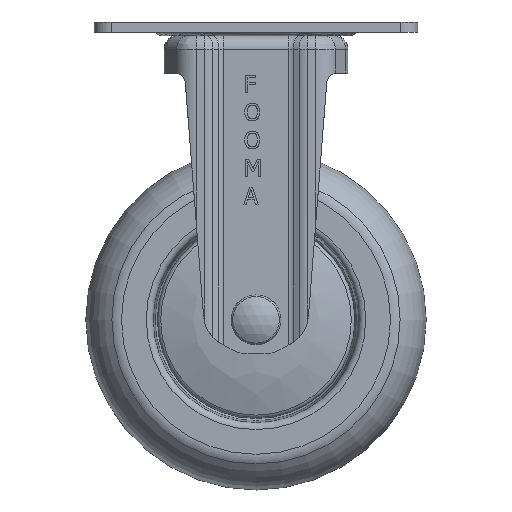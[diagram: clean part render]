
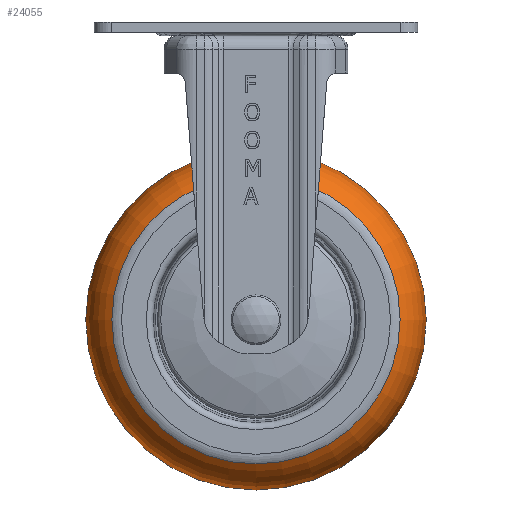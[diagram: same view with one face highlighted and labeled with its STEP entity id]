
A CAD part, front view. The second image highlights one B-rep face of the part: STEP entity #24055.
In plain terms, the highlighted toroidal (fillet/blend) face has major radius 32.404 mm and minor radius 17.6 mm.
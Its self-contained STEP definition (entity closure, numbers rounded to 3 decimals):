
#5906=TOROIDAL_SURFACE('',#25522,32.405,17.6);
#6163=FACE_BOUND('',#7788,.T.);
#6336=FACE_OUTER_BOUND('',#7787,.T.);
#7787=EDGE_LOOP('',(#16035));
#7788=EDGE_LOOP('',(#16036));
#9205=CIRCLE('',#25404,50.);
#9268=CIRCLE('',#25521,42.343);
#9878=VERTEX_POINT('',#34100);
#9941=VERTEX_POINT('',#34370);
#12260=EDGE_CURVE('',#9878,#9878,#9205,.T.);
#12326=EDGE_CURVE('',#9941,#9941,#9268,.T.);
#16035=ORIENTED_EDGE('',*,*,#12326,.T.);
#16036=ORIENTED_EDGE('',*,*,#12260,.F.);
#24055=ADVANCED_FACE('',(#6336,#6163),#5906,.T.);
#25404=AXIS2_PLACEMENT_3D('',#34101,#27426,#27427);
#25521=AXIS2_PLACEMENT_3D('',#34371,#27660,#27661);
#25522=AXIS2_PLACEMENT_3D('',#34372,#27662,#27663);
#27426=DIRECTION('center_axis',(0.,1.,0.));
#27427=DIRECTION('ref_axis',(1.,0.,0.));
#27660=DIRECTION('center_axis',(0.,1.,0.));
#27661=DIRECTION('ref_axis',(1.,0.,0.));
#27662=DIRECTION('center_axis',(0.,1.,0.));
#27663=DIRECTION('ref_axis',(0.,0.,1.));
#34100=CARTESIAN_POINT('',(5.956,-5.341,-32.25));
#34101=CARTESIAN_POINT('Origin',(5.956,-5.341,-82.25));
#34370=CARTESIAN_POINT('',(5.956,-19.468,-39.907));
#34371=CARTESIAN_POINT('Origin',(5.956,-19.468,-82.25));
#34372=CARTESIAN_POINT('Origin',(5.956,-4.942,-82.25));
